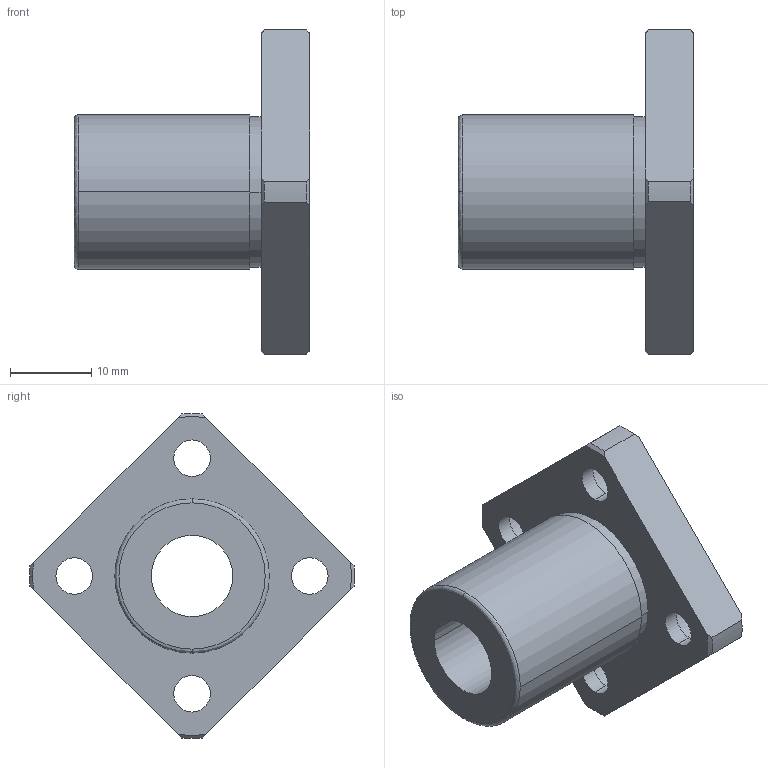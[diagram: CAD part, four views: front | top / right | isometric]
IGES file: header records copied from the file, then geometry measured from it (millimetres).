
Start section: 3D InterOp IGES (Version 21 0 1), Spatial Corp. Copyright (c) 1999-2007.
Global section: file name: NF-10TVUU.igs; native system: Spatial Corp.; preprocessor: 3D InterOp GENERIC/IGES 3.0; author: Noname; organization: Noname; date: 20220308.154456; units: millimetre
Bounding box: 29 x 40 x 39.99 mm (x, y, z)
Surface area: 4985.8 mm2 (no closed solid volume)
Topology: 0 solids, 0 shells, 51 faces, 256 edges, 256 vertices
Faces by surface type: revolution 39, extrusion 12
